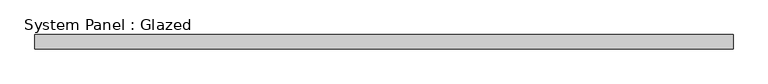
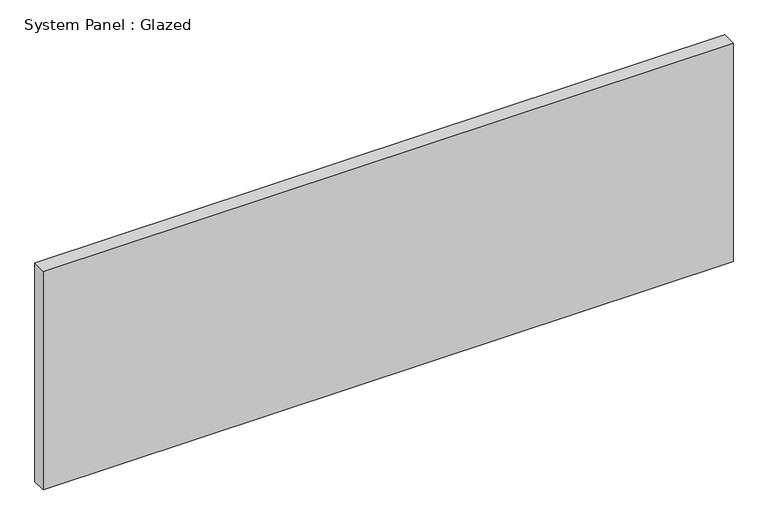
"""IFC4 building model written with IfcOpenShell, lengths in millimetres: plate geometry, System Panel : Glazed."""

from ifc_helpers import new_model, si_unit, origin, origin_with_axes, place, context, project, spatial, polyline, outline, extrude, source, transform, mapped, element, save


def system_panel_glazed_3aaf1b15(model_context):
    return source(origin(), model_context, "Body", "SweptSolid", [
        extrude(outline(polyline([(607.7777778, -49.5), (-607.7777778, -49.5), (-607.7777778, -24.5), (607.7777778, -24.5), (607.7777778, -49.5)])), origin_with_axes(), (0.0, 0.0, 1.0), 407.2),
    ])


if __name__ == "__main__":
    model = new_model("IFC4")
    model_context = context("Model", 3, world=origin())
    ifc_project = project(units=[si_unit("LENGTHUNIT", "METRE", prefix="MILLI")], contexts=[model_context])
    site = spatial("IfcSite", under=ifc_project)
    building = spatial("IfcBuilding", under=site)
    placement = place(None, origin())
    system_panel_glazed_shape = system_panel_glazed_3aaf1b15(model_context)
    element("IfcPlate", 1, ObjectType="System Panel : Glazed", at=placement, inside=building, context=model_context, shape_type="MappedRepresentation", body=[
        mapped(system_panel_glazed_shape, transform((0.0, 0.0, 0.0), x_axis=(1.0, 0.0, 0.0), y_axis=(0.0, 1.0, 0.0), z_axis=(0.0, 0.0, 1.0))),
    ])
    save(model, "model.ifc")
